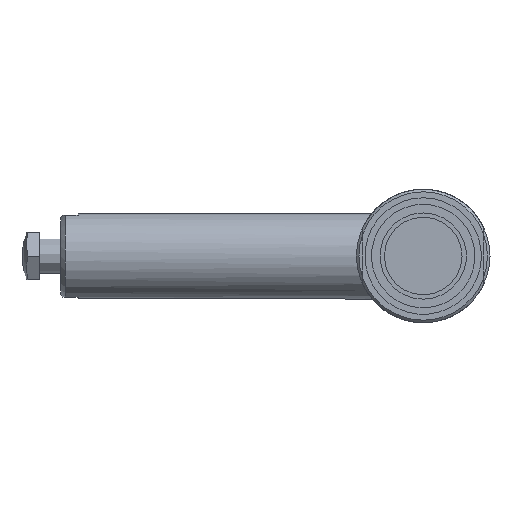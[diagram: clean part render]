
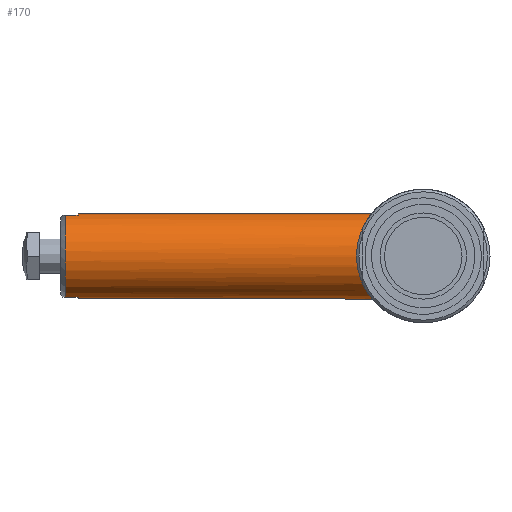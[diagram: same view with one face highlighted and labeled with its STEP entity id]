
A CAD part, front view. The second image highlights one B-rep face of the part: STEP entity #170.
In plain terms, the highlighted cylindrical face has radius 5 mm (diameter 10 mm), a full revolution.
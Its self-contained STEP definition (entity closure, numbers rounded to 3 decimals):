
#170 = ADVANCED_FACE( '', ( #368, #369 ), #370, .T. );
#368 = FACE_OUTER_BOUND( '', #574, .T. );
#369 = FACE_OUTER_BOUND( '', #575, .T. );
#370 = CYLINDRICAL_SURFACE( '', #576, 5. );
#574 = EDGE_LOOP( '', ( #936 ) );
#575 = EDGE_LOOP( '', ( #937, #938, #939, #940, #941, #942, #943, #944 ) );
#576 = AXIS2_PLACEMENT_3D( '', #945, #946, #947 );
#936 = ORIENTED_EDGE( '', *, *, #1137, .F. );
#937 = ORIENTED_EDGE( '', *, *, #1155, .T. );
#938 = ORIENTED_EDGE( '', *, *, #1163, .T. );
#939 = ORIENTED_EDGE( '', *, *, #1066, .F. );
#940 = ORIENTED_EDGE( '', *, *, #1127, .T. );
#941 = ORIENTED_EDGE( '', *, *, #1064, .T. );
#942 = ORIENTED_EDGE( '', *, *, #1164, .T. );
#943 = ORIENTED_EDGE( '', *, *, #1156, .F. );
#944 = ORIENTED_EDGE( '', *, *, #1097, .F. );
#945 = CARTESIAN_POINT( '', ( 103.015, 0., 0. ) );
#946 = DIRECTION( '', ( -1., 0., 0. ) );
#947 = DIRECTION( '', ( 0., 0., -1. ) );
#1064 = EDGE_CURVE( '', #1242, #1240, #1243, .T. );
#1066 = EDGE_CURVE( '', #1244, #1239, #1246, .T. );
#1097 = EDGE_CURVE( '', #1294, #1293, #1296, .T. );
#1127 = EDGE_CURVE( '', #1244, #1242, #1339, .T. );
#1137 = EDGE_CURVE( '', #1195, #1195, #1352, .T. );
#1155 = EDGE_CURVE( '', #1294, #1375, #1377, .T. );
#1156 = EDGE_CURVE( '', #1293, #1374, #1378, .T. );
#1163 = EDGE_CURVE( '', #1375, #1239, #1385, .T. );
#1164 = EDGE_CURVE( '', #1240, #1374, #1386, .T. );
#1195 = VERTEX_POINT( '', #1433 );
#1239 = VERTEX_POINT( '', #1503 );
#1240 = VERTEX_POINT( '', #1504 );
#1242 = VERTEX_POINT( '', #1515 );
#1243 = LINE( '', #1516, #1517 );
#1244 = VERTEX_POINT( '', #1518 );
#1246 = LINE( '', #1521, #1522 );
#1293 = VERTEX_POINT( '', #1577 );
#1294 = VERTEX_POINT( '', #1578 );
#1296 = CIRCLE( '', #1581, 5. );
#1339 = CIRCLE( '', #1694, 5. );
#1352 = CIRCLE( '', #1707, 5. );
#1374 = VERTEX_POINT( '', #1742 );
#1375 = VERTEX_POINT( '', #1743 );
#1377 = LINE( '', #1754, #1755 );
#1378 = LINE( '', #1756, #1757 );
#1385 = CIRCLE( '', #1765, 5. );
#1386 = CIRCLE( '', #1766, 5. );
#1433 = CARTESIAN_POINT( '', ( 93.215, -5., 0. ) );
#1503 = CARTESIAN_POINT( '', ( 55.215, 1.561, 4.75 ) );
#1504 = CARTESIAN_POINT( '', ( 55.215, -1.561, 4.75 ) );
#1515 = CARTESIAN_POINT( '', ( 56.715, -1.561, 4.75 ) );
#1516 = CARTESIAN_POINT( '', ( 56.715, -1.561, 4.75 ) );
#1517 = VECTOR( '', #1828, 1000. );
#1518 = CARTESIAN_POINT( '', ( 56.715, 1.561, 4.75 ) );
#1521 = CARTESIAN_POINT( '', ( 56.715, 1.561, 4.75 ) );
#1522 = VECTOR( '', #1830, 1000. );
#1577 = CARTESIAN_POINT( '', ( 56.715, -1.561, -4.75 ) );
#1578 = CARTESIAN_POINT( '', ( 56.715, 1.561, -4.75 ) );
#1581 = AXIS2_PLACEMENT_3D( '', #1876, #1877, #1878 );
#1694 = AXIS2_PLACEMENT_3D( '', #1906, #1907, #1908 );
#1707 = AXIS2_PLACEMENT_3D( '', #1924, #1925, #1926 );
#1742 = CARTESIAN_POINT( '', ( 55.215, -1.561, -4.75 ) );
#1743 = CARTESIAN_POINT( '', ( 55.215, 1.561, -4.75 ) );
#1754 = CARTESIAN_POINT( '', ( 56.715, 1.561, -4.75 ) );
#1755 = VECTOR( '', #1941, 1000. );
#1756 = CARTESIAN_POINT( '', ( 56.715, -1.561, -4.75 ) );
#1757 = VECTOR( '', #1942, 1000. );
#1765 = AXIS2_PLACEMENT_3D( '', #1947, #1948, #1949 );
#1766 = AXIS2_PLACEMENT_3D( '', #1950, #1951, #1952 );
#1828 = DIRECTION( '', ( -1., 0., 0. ) );
#1830 = DIRECTION( '', ( -1., 0., 0. ) );
#1876 = CARTESIAN_POINT( '', ( 56.715, 0., 0. ) );
#1877 = DIRECTION( '', ( -1., 0., 0. ) );
#1878 = DIRECTION( '', ( 0., 0., 1. ) );
#1906 = CARTESIAN_POINT( '', ( 56.715, 0., 0. ) );
#1907 = DIRECTION( '', ( 1., 0., 0. ) );
#1908 = DIRECTION( '', ( 0., 0., -1. ) );
#1924 = CARTESIAN_POINT( '', ( 93.215, 0., 0. ) );
#1925 = DIRECTION( '', ( 1., 0., 0. ) );
#1926 = DIRECTION( '', ( 0., 0., -1. ) );
#1941 = DIRECTION( '', ( -1., 0., 0. ) );
#1942 = DIRECTION( '', ( -1., 0., 0. ) );
#1947 = CARTESIAN_POINT( '', ( 55.215, 0., 0. ) );
#1948 = DIRECTION( '', ( 1., 0., 0. ) );
#1949 = DIRECTION( '', ( 0., 0., -1. ) );
#1950 = CARTESIAN_POINT( '', ( 55.215, 0., 0. ) );
#1951 = DIRECTION( '', ( 1., 0., 0. ) );
#1952 = DIRECTION( '', ( 0., 0., -1. ) );
